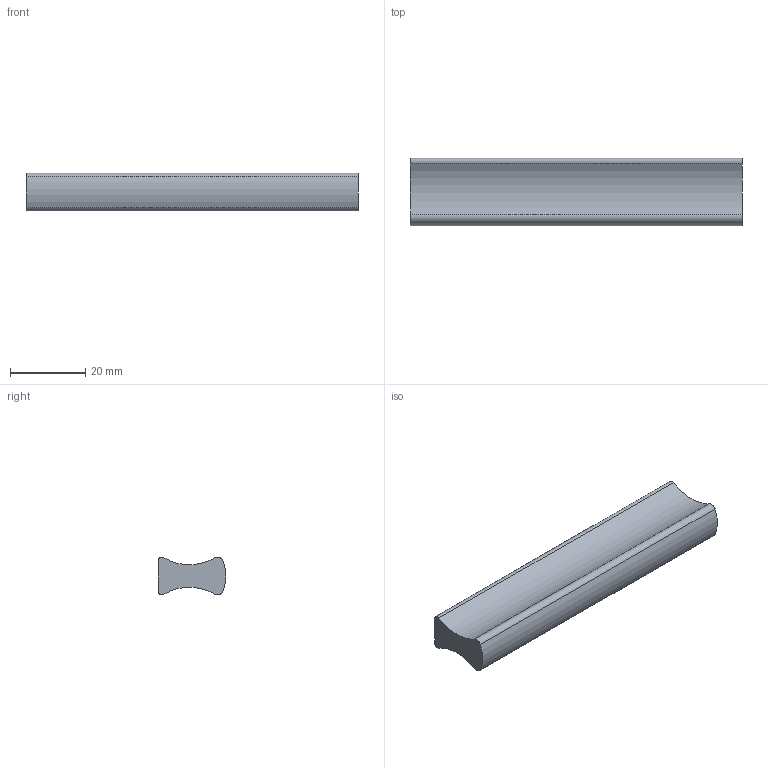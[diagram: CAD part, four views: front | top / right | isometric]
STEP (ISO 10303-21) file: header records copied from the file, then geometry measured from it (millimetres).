
FILE_DESCRIPTION( ( 'STEP AP214' ), '1' );
FILE_NAME( 'C:/Users/kulkarni/Desktop/Apurva/2015/Prodecor_2016/Cadfiles/kervo/9194367.stp', ' ', ( ' ' ), ( ' ' ), 'PSStep 15.0.47', 'PARTsolutions', ' ' );
FILE_SCHEMA( ( 'AUTOMOTIVE_DESIGN { 1 0 10303 214 1 1 1 1 }' ) );
Length unit declared in the file: millimetre
Products named in the file (1): _
Bounding box: 88 x 17.96 x 10 mm (x, y, z)
Volume: 11838.9 mm3; surface area: 5225.6 mm2
Topology: 1 solids, 1 shells, 14 faces, 30 edges, 20 vertices
Faces by surface type: cylinder 9, plane 5
Full cylindrical faces by diameter (mm): 4 x2
Entity records: 510 total; most frequent: DIRECTION 76, CARTESIAN_POINT 63, ORIENTED_EDGE 56, AXIS2_PLACEMENT_3D 33, EDGE_CURVE 28, VERTEX_POINT 20, EDGE_LOOP 18, CIRCLE 18
